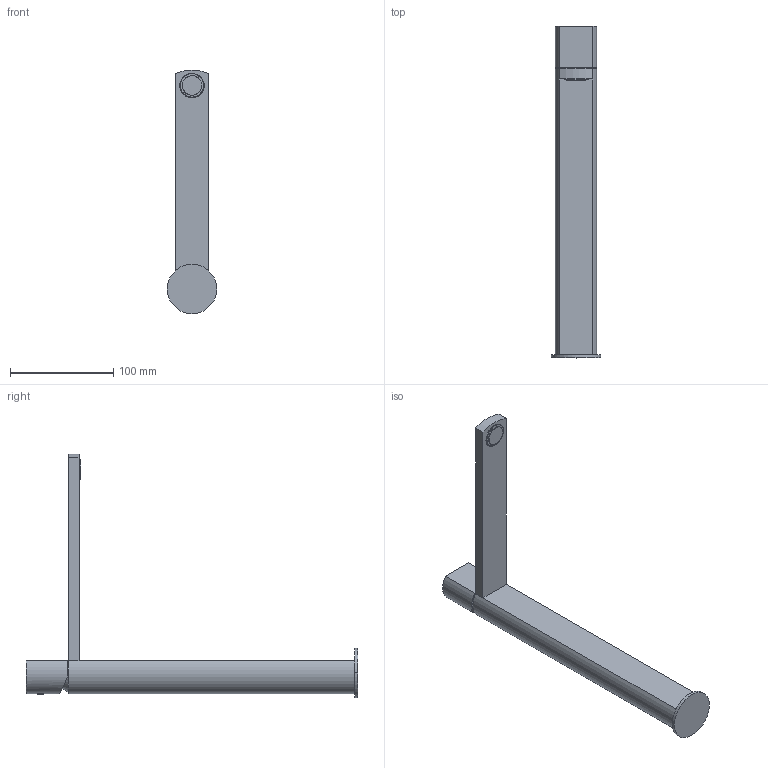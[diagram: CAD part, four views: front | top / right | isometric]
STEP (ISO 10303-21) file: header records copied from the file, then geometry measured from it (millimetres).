
FILE_DESCRIPTION((''),'2;1');
FILE_NAME('89065B21_SW0001','2020-06-16T16:42:14',('carloff'),(''),'CREO PARAMETRIC BY PTC INC, 2018100','CREO PARAMETRIC BY PTC INC, 2018100','');
FILE_SCHEMA(('CONFIG_CONTROL_DESIGN'));
Length unit declared in the file: millimetre
Products named in the file (1): 89065B21_SW0001
Bounding box: 48 x 321.3 x 235.7 mm (x, y, z)
Volume: 401397.1 mm3; surface area: 63416.3 mm2
Topology: 1 solids, 1 shells, 65 faces, 161 edges, 106 vertices
Faces by surface type: plane 26, cylinder 22, bspline 6, cone 4, torus 4, sphere 3
Entity records: 3740 total; most frequent: CARTESIAN_POINT 2185, ORIENTED_EDGE 314, DIRECTION 309, EDGE_CURVE 157, AXIS2_PLACEMENT_3D 126, VERTEX_POINT 105, EDGE_LOOP 78, CIRCLE 67
